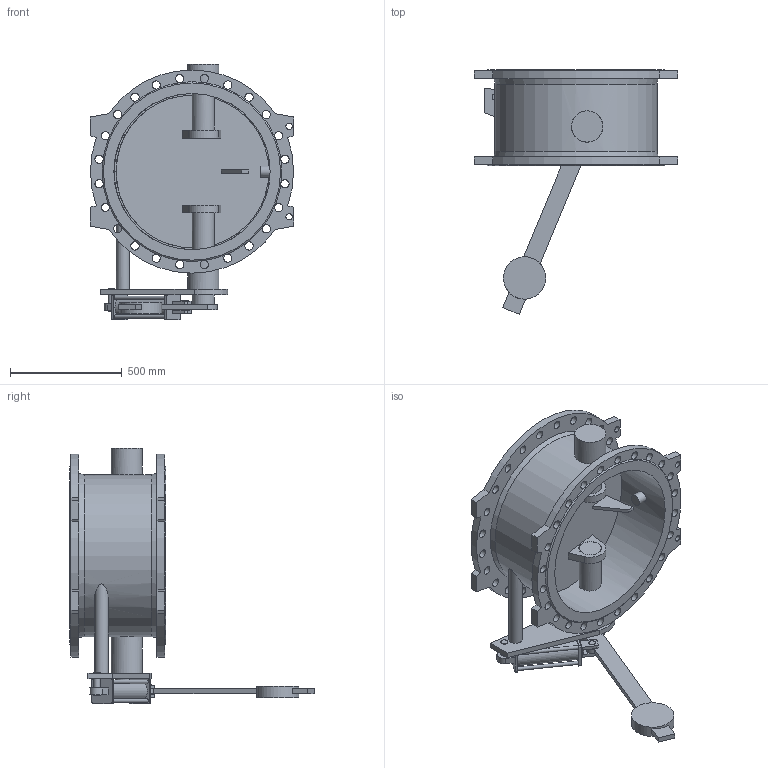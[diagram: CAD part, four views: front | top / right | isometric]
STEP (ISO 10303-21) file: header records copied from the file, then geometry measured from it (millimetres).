
FILE_DESCRIPTION(('STEP AP203'), '1');
FILE_NAME('Êëàïàí 015F.PV DN700 PN16 ñ ïðîòèâîâåñîì ñ äåìïôåðîì', '', ('UNSPECIFIED'), ('UNSPECIFIED'), 'ASCON STEP Converter 1.6', 'ASCON Math Kernel', '');
FILE_SCHEMA(('CONFIG_CONTROL_DESIGN'));
Length unit declared in the file: millimetre
Bounding box: 910 x 1095 x 1143 mm (x, y, z)
Volume: 51142526.4 mm3; surface area: 5033300.8 mm2
Topology: 1 solids, 1 shells, 215 faces, 697 edges, 462 vertices
Faces by surface type: cylinder 106, plane 100, cone 4, extrusion 2, torus 2, bspline 1
Full cylindrical faces by diameter (mm): 16 x5, 20 x2, 28 x4, 30 x7, 35 x1, 37 x48, 50 x1, 60 x1, 90 x1, 100 x3, 102 x2, 140 x2, 190 x1, 700 x1, 726 x1
Entity records: 13216 total; most frequent: CARTESIAN_POINT 5315, DIRECTION 1266, ORIENTED_EDGE 1202, EDGE_CURVE 601, AXIS2_PLACEMENT_3D 525, VERTEX_POINT 461, EDGE_LOOP 414, CIRCLE 312
